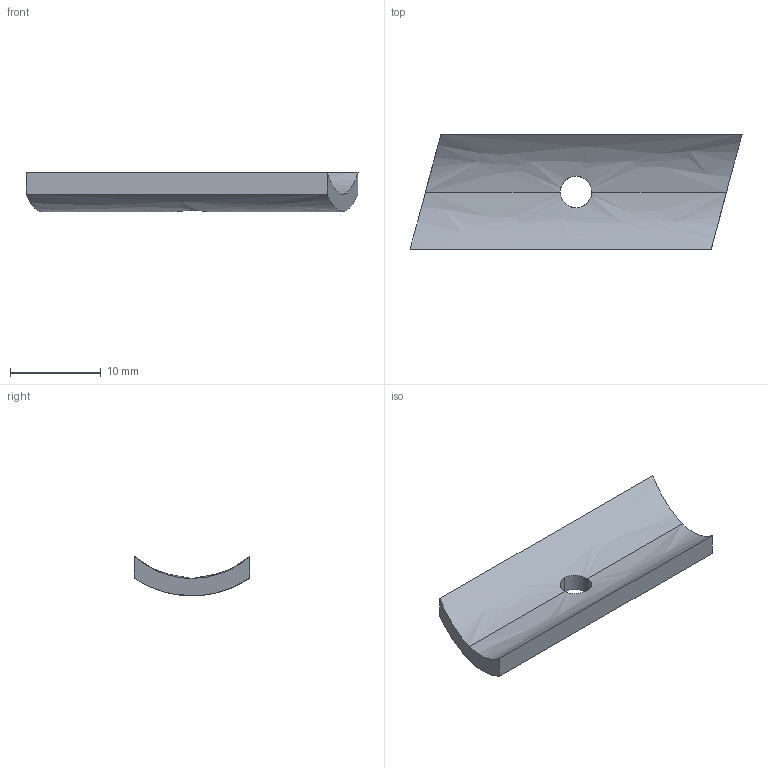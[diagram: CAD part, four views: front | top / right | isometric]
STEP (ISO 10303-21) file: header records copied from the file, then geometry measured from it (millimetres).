
FILE_DESCRIPTION(('TurboCAD Mac Pro'),'Build 980');
FILE_NAME('P3016-0832.stp',' ',(''),(''),'ACIS Interop','IMSI','TurboCAD Mac Pro BY IMSI, INCORPORATED');
FILE_SCHEMA(('automotive_design'));
Length unit declared in the file: inch
Products named in the file (1): 1
Bounding box: 36.51 x 12.7 x 4.33 mm (x, y, z)
Volume: 843.7 mm3; surface area: 1121.4 mm2
Topology: 1 solids, 1 shells, 12 faces, 36 edges, 24 vertices
Faces by surface type: bspline 8, plane 4
Entity records: 658 total; most frequent: CARTESIAN_POINT 275, ORIENTED_EDGE 72, EDGE_CURVE 36, DIRECTION 24, VERTEX_POINT 24, B_SPLINE_CURVE_WITH_KNOTS 22, LINE 14, VECTOR 14
